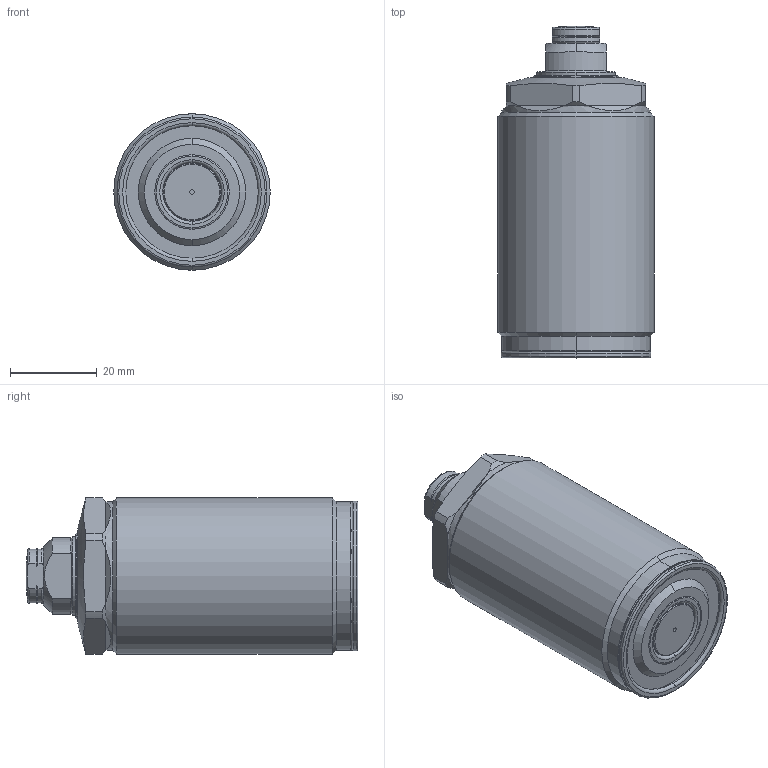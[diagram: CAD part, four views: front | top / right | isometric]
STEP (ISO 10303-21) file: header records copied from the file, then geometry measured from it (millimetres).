
FILE_DESCRIPTION(/* description */ (''),/* implementation_level */ '2;1');
FILE_NAME(/* name */ 'GSC04.stp',/* time_stamp */ '2025-01-10T08:48:46+08:00',/* author */ (''),/* organization */ (''),/* preprocessor_version */ 'ST-DEVELOPER v16.7',/* originating_system */ 'SIEMENS PLM Software NX 12.0',/* authorisation */ '');
FILE_SCHEMA (('AUTOMOTIVE_DESIGN { 1 0 10303 214 3 1 1 1 }'));
Length unit declared in the file: millimetre
Products named in the file (8): AS010864; TNC0403_ContactBolt_M10791; GSC04-05; GSC04-04; GSC04-02; GSC04-01; GSC04-03; GSC04_stp
Assembly tree (7 placements, depth 3):
  GSC04_stp
    GSC04-01
    GSC04-02
    GSC04-03
      TNC0403_ContactBolt_M10791
      AS010864
    GSC04-04
    GSC04-05
Bounding box: 36 x 76.4 x 36 mm (x, y, z)
Volume: 67249.5 mm3; surface area: 12635.5 mm2
Topology: 6 solids, 6 shells, 149 faces, 328 edges, 198 vertices
Faces by surface type: cylinder 47, torus 36, plane 36, cone 28, sphere 2
Full cylindrical faces by diameter (mm): 34.2 x1, 36 x1
Entity records: 4471 total; most frequent: CARTESIAN_POINT 919, DIRECTION 797, ORIENTED_EDGE 648, AXIS2_PLACEMENT_3D 356, EDGE_CURVE 324, VERTEX_POINT 198, CIRCLE 193, EDGE_LOOP 168
